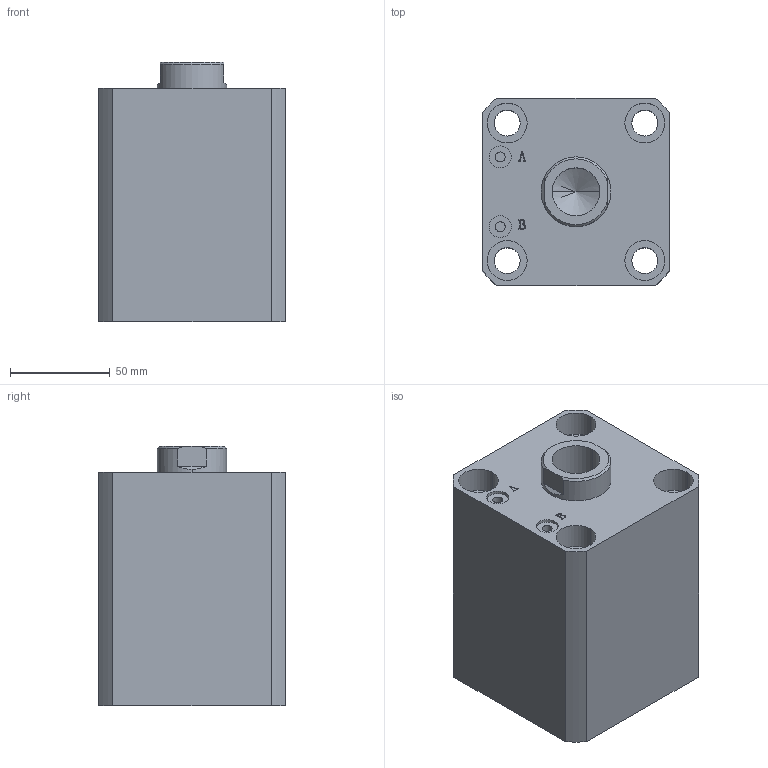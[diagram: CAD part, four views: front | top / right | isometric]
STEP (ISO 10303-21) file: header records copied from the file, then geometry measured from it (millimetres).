
FILE_DESCRIPTION (( 'STEP AP203' ), '1' );
FILE_NAME ('HTB-SDMA63-50N.STEP', '2019-10-08T01:08:15', ( '微软用户' ), ( '微软中国' ), 'SwSTEP 2.0', 'SolidWorks 2012', '' );
FILE_SCHEMA (( 'CONFIG_CONTROL_DESIGN' ));
Length unit declared in the file: millimetre
Products named in the file (3): HTB-SDMA63-50N; HTB-SDMA63-50N活塞杆; HTB-SDMA63-50掛极
Assembly tree (2 placements, depth 2):
  HTB-SDMA63-50N
    HTB-SDMA63-50掛极
    HTB-SDMA63-50N活塞杆
Bounding box: 94 x 94 x 130 mm (x, y, z)
Volume: 826014.4 mm3; surface area: 124932.3 mm2
Topology: 2 solids, 2 shells, 137 faces, 331 edges, 217 vertices
Faces by surface type: plane 65, cylinder 46, bspline 16, torus 6, cone 4
Entity records: 5070 total; most frequent: CARTESIAN_POINT 1576, ORIENTED_EDGE 658, DIRECTION 647, EDGE_CURVE 329, AXIS2_PLACEMENT_3D 232, VERTEX_POINT 217, LINE 183, VECTOR 183
